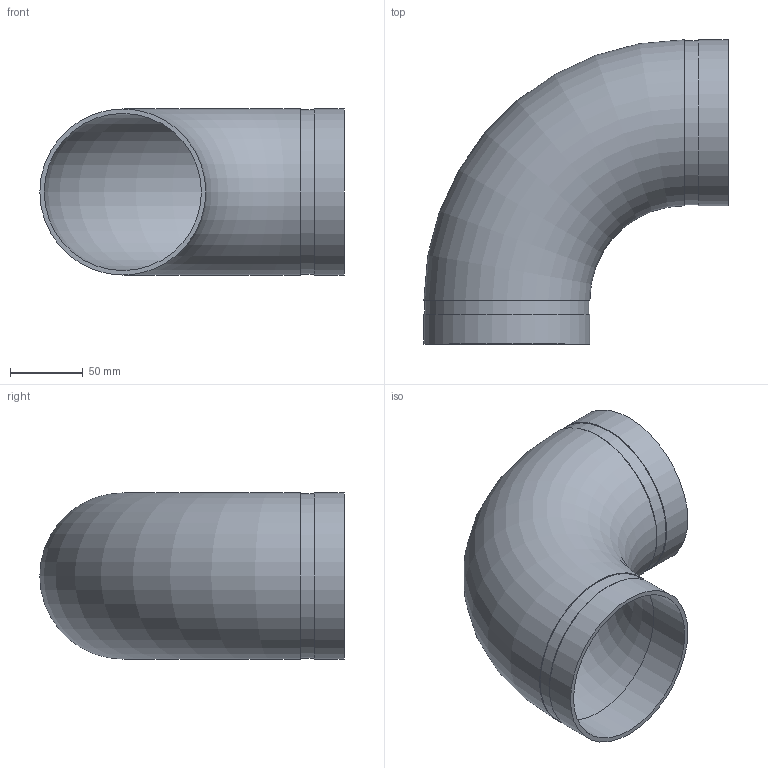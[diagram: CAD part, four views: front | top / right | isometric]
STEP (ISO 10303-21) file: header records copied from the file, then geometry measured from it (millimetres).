
FILE_DESCRIPTION(/* description */ ('VIC 90 DEG ELBOW STYLE 401DX','CAx-IF Rec.Pracs.---Representation and Presentation of Product Manufacturing Information (PMI)---4.0---2014-10-13'),/* implementation_level */ '2;1');
FILE_NAME(/* name */ 'C:\Users\kkamble\AppData\Roaming\Autodesk\ApplicationPlugins\Back Up\Victaulic_SS-StrengThin_Elbow 90 Deg_No 401DX (STG)\Victaulic_SS-StrengThin_Elbow 90 Deg_No 401DX (STG)_4 (100).stp',/* time_stamp */ '2020-08-17T13:28:15+06:00',/* author */ ('cps_temp'),/* organization */ ('Victaulic'),/* preprocessor_version */ 'ST-DEVELOPER v17.2',/* originating_system */ 'Autodesk Inventor 2019',/* authorisation */ '');
FILE_SCHEMA (('AP242_MANAGED_MODEL_BASED_3D_ENGINEERING_MIM_LF { 1 0 10303 442 1 1 4 }'));
Length unit declared in the file: inch
Products named in the file (1): 401DX-04.0
Bounding box: 209.55 x 209.55 x 114.3 mm (x, y, z)
Volume: 264464.5 mm3; surface area: 179329.1 mm2
Topology: 1 solids, 1 shells, 14 faces, 30 edges, 22 vertices
Faces by surface type: plane 6, cylinder 6, torus 2
Full cylindrical faces by diameter (mm): 108.204 x2, 113.03 x2, 114.3 x2
Entity records: 556 total; most frequent: DIRECTION 110, CARTESIAN_POINT 84, ORIENTED_EDGE 60, AXIS2_PLACEMENT_3D 52, EDGE_CURVE 30, CIRCLE 24, VERTEX_POINT 22, EDGE_LOOP 20
